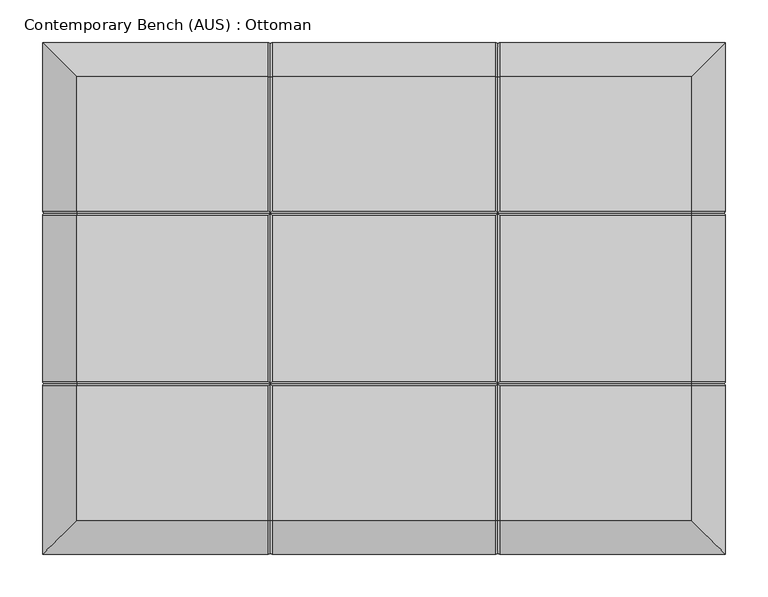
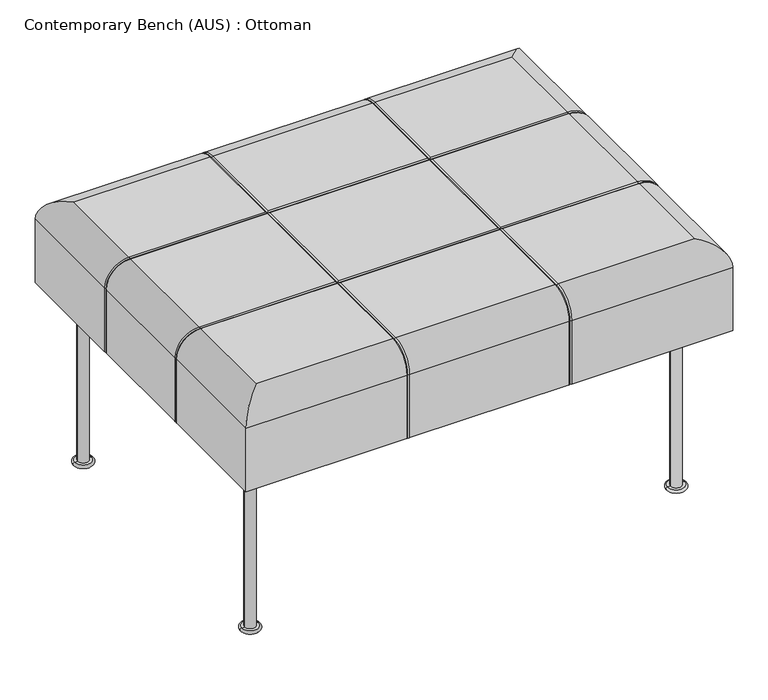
"""IFC4 building model written with IfcOpenShell, lengths in millimetres: furniture geometry, Contemporary Bench (AUS) : Ottoman."""

from ifc_helpers import new_model, si_unit, point, frame, origin, place, context, project, spatial, circle_curve, ellipse_curve, trimmed, source, transform, mapped, element, save
from ifc_brep_helpers import plane_surface, cylinder_surface, revolved_surface, advanced_brep


def contemporary_bench_aus_ottoman_80d4fd55(model_context):
    return source(origin(), model_context, "Body", "AdvancedBrep", [
        advanced_brep(
        [(462.3811933, -50.0, 5.0), (480.3811933, -50.0, 5.0), (480.3811933, -50.0, 300.0), (462.3811933, -50.0, 300.0), (457.3811933, -50.0, 5.0), (485.3811933, -50.0, 5.0), (457.3811933, -50.0, 0.0), (485.3811933, -50.0, 0.0), (471.3811933, -50.0, 0.0), (471.3811933, -50.0, 300.0)],
        [
            (0, 1, circle_curve(frame((471.3811933, -50.0, 5.0), z_axis=(0.0, 0.0, 1.0), x_axis=(1.0, 0.0, 0.0)), 9.0)),
            (1, 2),
            (2, 3, circle_curve(frame((471.3811933, -50.0, 300.0), z_axis=(0.0, 0.0, -1.0), x_axis=(1.0, 0.0, 0.0)), 9.0)),
            (3, 0),
            (1, 0, circle_curve(frame((471.3811933, -50.0, 5.0), z_axis=(0.0, 0.0, 1.0), x_axis=(1.0, 0.0, 0.0)), 9.0)),
            (3, 2, circle_curve(frame((471.3811933, -50.0, 300.0), z_axis=(0.0, 0.0, -1.0), x_axis=(1.0, 0.0, 0.0)), 9.0)),
            (4, 5, circle_curve(frame((471.3811933, -50.0, 5.0), z_axis=(0.0, 0.0, 1.0), x_axis=(1.0, 0.0, 0.0)), 14.0)),
            (5, 1),
            (0, 4),
            (5, 4, circle_curve(frame((471.3811933, -50.0, 5.0), z_axis=(0.0, 0.0, 1.0), x_axis=(1.0, 0.0, 0.0)), 14.0)),
            (6, 7, circle_curve(frame((471.3811933, -50.0, 0.0), z_axis=(0.0, 0.0, 1.0), x_axis=(1.0, 0.0, 0.0)), 14.0)),
            (7, 5, circle_curve(frame((485.3811933, -50.0, 2.5), z_axis=(0.0, -1.0, 0.0), x_axis=(-1.0, 0.0, 0.0)), 2.5)),
            (4, 6, circle_curve(frame((457.3811933, -50.0, 2.5), z_axis=(0.0, -1.0, 0.0), x_axis=(1.0, 0.0, 0.0)), 2.5)),
            (7, 6, circle_curve(frame((471.3811933, -50.0, 0.0), z_axis=(0.0, 0.0, 1.0), x_axis=(1.0, 0.0, 0.0)), 14.0)),
            (8, 7),
            (6, 8),
            (2, 9),
            (9, 3),
        ],
        [
            cylinder_surface(frame((471.3811933, -50.0, -55.0), z_axis=(0.0, 0.0, -1.0), x_axis=(1.0, 0.0, 0.0)), 9.0),
            plane_surface(frame((471.3811933, -50.0, 5.0), z_axis=(0.0, 0.0, 1.0), x_axis=(1.0, 0.0, 0.0))),
            revolved_surface(trimmed(ellipse_curve(frame((485.3811933, -50.0, 2.5), z_axis=(0.0, 1.0, 0.0), x_axis=(-1.0, 0.0, 0.0)), 2.5, 2.5), [point((485.3811933, -50.0, 5.0))], [point((485.3811933, -50.0, 0.0))], True, "CARTESIAN"), (471.3811933, -50.0, -55.0), (0.0, 0.0, -1.0)),
            plane_surface(frame((471.3811933, -50.0, 0.0), z_axis=(0.0, 0.0, -1.0), x_axis=(1.0, 0.0, 0.0))),
            plane_surface(frame((471.3811933, -50.0, 300.0), z_axis=(0.0, 0.0, 1.0), x_axis=(1.0, 0.0, 0.0))),
        ],
        [
            (0, [[1, 2, 3, 4]]),
            (0, [[5, -4, 6, -2]]),
            (1, [[7, 8, -1, 9]]),
            (1, [[10, -9, -5, -8]]),
            (2, [[11, 12, -7, 13]]),
            (2, [[14, -13, -10, -12]]),
            (3, [[15, -11, 16]]),
            (3, [[-16, -14, -15]]),
            (4, [[-3, 17, 18]]),
            (4, [[-6, -18, -17]]),
        ],
    ),
        advanced_brep(
        [(-228.6188067, -50.0, 300.0), (-237.6188067, -50.0, 300.0), (-219.6188067, -50.0, 300.0), (-214.6188067, -50.0, 0.0), (-242.6188067, -50.0, 0.0), (-228.6188067, -50.0, 0.0), (-214.6188067, -50.0, 5.0), (-242.6188067, -50.0, 5.0), (-219.6188067, -50.0, 5.0), (-237.6188067, -50.0, 5.0)],
        [
            (0, 1),
            (1, 2, circle_curve(frame((-228.6188067, -50.0, 300.0), z_axis=(0.0, 0.0, 1.0), x_axis=(-1.0, 0.0, 0.0)), 9.0)),
            (2, 0),
            (2, 1, circle_curve(frame((-228.6188067, -50.0, 300.0), z_axis=(0.0, 0.0, 1.0), x_axis=(-1.0, 0.0, 0.0)), 9.0)),
            (3, 4, circle_curve(frame((-228.6188067, -50.0, 0.0), z_axis=(0.0, 0.0, -1.0), x_axis=(-1.0, 0.0, 0.0)), 14.0)),
            (4, 5),
            (5, 3),
            (4, 3, circle_curve(frame((-228.6188067, -50.0, 0.0), z_axis=(0.0, 0.0, -1.0), x_axis=(-1.0, 0.0, 0.0)), 14.0)),
            (6, 7, circle_curve(frame((-228.6188067, -50.0, 5.0), z_axis=(0.0, 0.0, -1.0), x_axis=(-1.0, 0.0, 0.0)), 14.0)),
            (7, 4, circle_curve(frame((-242.6188067, -50.0, 2.5), z_axis=(0.0, -1.0, 0.0), x_axis=(-1.0, 0.0, 0.0)), 2.5)),
            (3, 6, circle_curve(frame((-214.6188067, -50.0, 2.5), z_axis=(0.0, -1.0, 0.0), x_axis=(1.0, 0.0, 0.0)), 2.5)),
            (7, 6, circle_curve(frame((-228.6188067, -50.0, 5.0), z_axis=(0.0, 0.0, -1.0), x_axis=(-1.0, 0.0, 0.0)), 14.0)),
            (8, 9, circle_curve(frame((-228.6188067, -50.0, 5.0), z_axis=(0.0, 0.0, -1.0), x_axis=(-1.0, 0.0, 0.0)), 9.0)),
            (9, 7),
            (6, 8),
            (9, 8, circle_curve(frame((-228.6188067, -50.0, 5.0), z_axis=(0.0, 0.0, -1.0), x_axis=(-1.0, 0.0, 0.0)), 9.0)),
            (1, 9),
            (8, 2),
        ],
        [
            plane_surface(frame((-228.6188067, -50.0, 300.0), z_axis=(0.0, 0.0, 1.0), x_axis=(-1.0, 0.0, 0.0))),
            plane_surface(frame((-228.6188067, -50.0, 0.0), z_axis=(0.0, 0.0, -1.0), x_axis=(-1.0, 0.0, 0.0))),
            revolved_surface(trimmed(ellipse_curve(frame((-242.6188067, -50.0, 2.5), z_axis=(0.0, 1.0, 0.0), x_axis=(-1.0, 0.0, 0.0)), 2.5, 2.5), [point((-242.6188067, -50.0, 0.0))], [point((-242.6188067, -50.0, 5.0))], True, "CARTESIAN"), (-228.6188067, -50.0, -55.0), (0.0, 0.0, 1.0)),
            plane_surface(frame((-228.6188067, -50.0, 5.0), z_axis=(0.0, 0.0, 1.0), x_axis=(-1.0, 0.0, 0.0))),
            cylinder_surface(frame((-228.6188067, -50.0, -55.0), z_axis=(0.0, 0.0, 1.0), x_axis=(-1.0, 0.0, 0.0)), 9.0),
        ],
        [
            (0, [[1, 2, 3]]),
            (0, [[-3, 4, -1]]),
            (1, [[5, 6, 7]]),
            (1, [[8, -7, -6]]),
            (2, [[9, 10, -5, 11]]),
            (2, [[12, -11, -8, -10]]),
            (3, [[13, 14, -9, 15]]),
            (3, [[16, -15, -12, -14]]),
            (4, [[-2, 17, -13, 18]]),
            (4, [[-4, -18, -16, -17]]),
        ],
    ),
        advanced_brep(
        [(462.3811933, -525.0, 5.0), (480.3811933, -525.0, 5.0), (480.3811933, -525.0, 300.0), (462.3811933, -525.0, 300.0), (457.3811933, -525.0, 5.0), (485.3811933, -525.0, 5.0), (457.3811933, -525.0, 0.0), (485.3811933, -525.0, 0.0), (471.3811933, -525.0, 0.0), (471.3811933, -525.0, 300.0)],
        [
            (0, 1, circle_curve(frame((471.3811933, -525.0, 5.0), z_axis=(0.0, 0.0, 1.0), x_axis=(1.0, 0.0, 0.0)), 9.0)),
            (1, 2),
            (2, 3, circle_curve(frame((471.3811933, -525.0, 300.0), z_axis=(0.0, 0.0, -1.0), x_axis=(1.0, 0.0, 0.0)), 9.0)),
            (3, 0),
            (1, 0, circle_curve(frame((471.3811933, -525.0, 5.0), z_axis=(0.0, 0.0, 1.0), x_axis=(1.0, 0.0, 0.0)), 9.0)),
            (3, 2, circle_curve(frame((471.3811933, -525.0, 300.0), z_axis=(0.0, 0.0, -1.0), x_axis=(1.0, 0.0, 0.0)), 9.0)),
            (4, 5, circle_curve(frame((471.3811933, -525.0, 5.0), z_axis=(0.0, 0.0, 1.0), x_axis=(1.0, 0.0, 0.0)), 14.0)),
            (5, 1),
            (0, 4),
            (5, 4, circle_curve(frame((471.3811933, -525.0, 5.0), z_axis=(0.0, 0.0, 1.0), x_axis=(1.0, 0.0, 0.0)), 14.0)),
            (6, 7, circle_curve(frame((471.3811933, -525.0, 0.0), z_axis=(0.0, 0.0, 1.0), x_axis=(1.0, 0.0, 0.0)), 14.0)),
            (7, 5, circle_curve(frame((485.3811933, -525.0, 2.5), z_axis=(0.0, -1.0, 0.0), x_axis=(1.0, 0.0, 0.0)), 2.5)),
            (4, 6, circle_curve(frame((457.3811933, -525.0, 2.5), z_axis=(0.0, -1.0, 0.0), x_axis=(-1.0, 0.0, 0.0)), 2.5)),
            (7, 6, circle_curve(frame((471.3811933, -525.0, 0.0), z_axis=(0.0, 0.0, 1.0), x_axis=(1.0, 0.0, 0.0)), 14.0)),
            (8, 7),
            (6, 8),
            (2, 9),
            (9, 3),
        ],
        [
            cylinder_surface(frame((471.3811933, -525.0, -55.0), z_axis=(0.0, 0.0, -1.0), x_axis=(1.0, 0.0, 0.0)), 9.0),
            plane_surface(frame((471.3811933, -525.0, 5.0), z_axis=(0.0, 0.0, 1.0), x_axis=(1.0, 0.0, 0.0))),
            revolved_surface(trimmed(ellipse_curve(frame((485.3811933, -525.0, 2.5), z_axis=(0.0, 1.0, 0.0), x_axis=(1.0, 0.0, 0.0)), 2.5, 2.5), [point((485.3811933, -525.0, 5.0))], [point((485.3811933, -525.0, 0.0))], True, "CARTESIAN"), (471.3811933, -525.0, -55.0), (0.0, 0.0, -1.0)),
            plane_surface(frame((471.3811933, -525.0, 0.0), z_axis=(0.0, 0.0, -1.0), x_axis=(1.0, 0.0, 0.0))),
            plane_surface(frame((471.3811933, -525.0, 300.0), z_axis=(0.0, 0.0, 1.0), x_axis=(1.0, 0.0, 0.0))),
        ],
        [
            (0, [[1, 2, 3, 4]]),
            (0, [[5, -4, 6, -2]]),
            (1, [[7, 8, -1, 9]]),
            (1, [[10, -9, -5, -8]]),
            (2, [[11, 12, -7, 13]]),
            (2, [[14, -13, -10, -12]]),
            (3, [[15, -11, 16]]),
            (3, [[-16, -14, -15]]),
            (4, [[-3, 17, 18]]),
            (4, [[-6, -18, -17]]),
        ],
    ),
        advanced_brep(
        [(-228.6188067, -525.0, 300.0), (-237.6188067, -525.0, 300.0), (-219.6188067, -525.0, 300.0), (-214.6188067, -525.0, 0.0), (-242.6188067, -525.0, 0.0), (-228.6188067, -525.0, 0.0), (-214.6188067, -525.0, 5.0), (-242.6188067, -525.0, 5.0), (-219.6188067, -525.0, 5.0), (-237.6188067, -525.0, 5.0)],
        [
            (0, 1),
            (1, 2, circle_curve(frame((-228.6188067, -525.0, 300.0), z_axis=(0.0, 0.0, 1.0), x_axis=(-1.0, 0.0, 0.0)), 9.0)),
            (2, 0),
            (2, 1, circle_curve(frame((-228.6188067, -525.0, 300.0), z_axis=(0.0, 0.0, 1.0), x_axis=(-1.0, 0.0, 0.0)), 9.0)),
            (3, 4, circle_curve(frame((-228.6188067, -525.0, 0.0), z_axis=(0.0, 0.0, -1.0), x_axis=(-1.0, 0.0, 0.0)), 14.0)),
            (4, 5),
            (5, 3),
            (4, 3, circle_curve(frame((-228.6188067, -525.0, 0.0), z_axis=(0.0, 0.0, -1.0), x_axis=(-1.0, 0.0, 0.0)), 14.0)),
            (6, 7, circle_curve(frame((-228.6188067, -525.0, 5.0), z_axis=(0.0, 0.0, -1.0), x_axis=(-1.0, 0.0, 0.0)), 14.0)),
            (7, 4, circle_curve(frame((-242.6188067, -525.0, 2.5), z_axis=(0.0, -1.0, 0.0), x_axis=(-1.0, 0.0, 0.0)), 2.5)),
            (3, 6, circle_curve(frame((-214.6188067, -525.0, 2.5), z_axis=(0.0, -1.0, 0.0), x_axis=(1.0, 0.0, 0.0)), 2.5)),
            (7, 6, circle_curve(frame((-228.6188067, -525.0, 5.0), z_axis=(0.0, 0.0, -1.0), x_axis=(-1.0, 0.0, 0.0)), 14.0)),
            (8, 9, circle_curve(frame((-228.6188067, -525.0, 5.0), z_axis=(0.0, 0.0, -1.0), x_axis=(-1.0, 0.0, 0.0)), 9.0)),
            (9, 7),
            (6, 8),
            (9, 8, circle_curve(frame((-228.6188067, -525.0, 5.0), z_axis=(0.0, 0.0, -1.0), x_axis=(-1.0, 0.0, 0.0)), 9.0)),
            (1, 9),
            (8, 2),
        ],
        [
            plane_surface(frame((-228.6188067, -525.0, 300.0), z_axis=(0.0, 0.0, 1.0), x_axis=(-1.0, 0.0, 0.0))),
            plane_surface(frame((-228.6188067, -525.0, 0.0), z_axis=(0.0, 0.0, -1.0), x_axis=(-1.0, 0.0, 0.0))),
            revolved_surface(trimmed(ellipse_curve(frame((-242.6188067, -525.0, 2.5), z_axis=(0.0, 1.0, 0.0), x_axis=(-1.0, 0.0, 0.0)), 2.5, 2.5), [point((-242.6188067, -525.0, 0.0))], [point((-242.6188067, -525.0, 5.0))], True, "CARTESIAN"), (-228.6188067, -525.0, -55.0), (0.0, 0.0, 1.0)),
            plane_surface(frame((-228.6188067, -525.0, 5.0), z_axis=(0.0, 0.0, 1.0), x_axis=(-1.0, 0.0, 0.0))),
            cylinder_surface(frame((-228.6188067, -525.0, -55.0), z_axis=(0.0, 0.0, 1.0), x_axis=(-1.0, 0.0, 0.0)), 9.0),
        ],
        [
            (0, [[1, 2, 3]]),
            (0, [[-3, 4, -1]]),
            (1, [[5, 6, 7]]),
            (1, [[8, -7, -6]]),
            (2, [[9, 10, -5, 11]]),
            (2, [[12, -11, -8, -10]]),
            (3, [[13, 14, -9, 15]]),
            (3, [[16, -15, -12, -14]]),
            (4, [[-2, 17, -13, 18]]),
            (4, [[-4, -18, -16, -17]]),
        ],
    ),
        advanced_brep(
        [(-278.6188067, -600.0, 410.0), (-278.6188067, -600.0, 300.0), (-14.6315493, -600.0, 300.0), (-14.6315493, -600.0, 410.0), (521.3811933, -600.0, 300.0), (521.3811933, -600.0, 410.0), (257.3939359, -600.0, 410.0), (257.3939359, -600.0, 300.0), (-9.2727308, -600.0, 300.0), (252.0351174, -600.0, 300.0), (252.0351174, -600.0, 410.0), (-9.2727308, -600.0, 410.0), (521.3811933, 0.0, 410.0), (521.3811933, 0.0, 300.0), (257.3939359, 0.0, 300.0), (257.3939359, 0.0, 410.0), (-278.6188067, 0.0, 300.0), (-278.6188067, 0.0, 410.0), (-14.6315493, 0.0, 410.0), (-14.6315493, 0.0, 300.0), (252.0351174, 0.0, 300.0), (-9.2727308, 0.0, 300.0), (-9.2727308, 0.0, 410.0), (252.0351174, 0.0, 410.0), (-238.6188067, -402.679408, 450.0), (-238.6188067, -560.0, 450.0), (-14.6315493, -560.0, 450.0), (-14.6315493, -402.6794092, 450.0), (-238.6188067, -40.0, 450.0), (-238.6188067, -197.3205908, 450.0), (-14.6315493, -197.3205908, 450.0), (-14.6315493, -40.0, 450.0), (-238.6188067, -202.6794084, 450.0), (-238.6188067, -397.3205908, 450.0), (-14.6315493, -397.3205908, 450.0), (-14.6315493, -202.6794092, 450.0), (481.3811933, -560.0, 450.0), (481.3811933, -402.6794092, 450.0), (257.3939359, -402.6794092, 450.0), (257.3939359, -560.0, 450.0), (481.3811933, -197.3205908, 450.0), (481.3811933, -40.0, 450.0), (257.3939359, -40.0, 450.0), (257.3939359, -197.3205908, 450.0), (481.3811933, -397.3205908, 450.0), (481.3811933, -202.6794092, 450.0), (257.3939359, -202.6794092, 450.0), (257.3939359, -397.3205908, 450.0), (252.0351188, -40.0, 450.0), (-9.2727308, -40.0, 450.0), (-9.2727308, -197.3205908, 450.0), (252.0351174, -197.3205908, 450.0), (-9.2727308, -560.0, 450.0), (252.0351174, -560.0, 450.0), (252.0351174, -402.6794092, 450.0), (-9.2727308, -402.6794092, 450.0), (-9.2727308, -397.3205908, 450.0), (252.0351174, -397.3205908, 450.0), (252.0351174, -202.6794092, 450.0), (-9.2727308, -202.6794092, 450.0), (-278.6188067, -402.6794092, 410.0), (-278.6188067, -402.6794092, 300.0), (-278.6188067, -197.3205908, 300.0), (-278.6188067, -197.3205908, 410.0), (-278.6188067, -397.3205908, 410.0), (-278.6188067, -202.6794092, 410.0), (-278.6188067, -202.6794092, 300.0), (-278.6188067, -397.3205908, 300.0), (-275.9393975, -400.0, 300.0), (-275.9393975, -200.0, 300.0), (-11.95214, -2.6794092, 300.0), (254.7145266, -2.6794092, 300.0), (521.3811933, -197.3205908, 300.0), (518.7017841, -200.0, 300.0), (521.3811933, -202.6794092, 300.0), (521.3811933, -397.3205908, 300.0), (518.7017841, -400.0, 300.0), (521.3811933, -402.6794092, 300.0), (254.7145266, -597.3205908, 300.0), (-11.95214, -597.3205908, 300.0), (521.3811933, -402.6794092, 410.0), (521.3811933, -197.3205908, 410.0), (521.3811933, -202.6794092, 410.0), (521.3811933, -397.3205908, 410.0), (-275.9393975, -400.0, 410.0), (-275.9393975, -200.0, 410.0), (-238.6188067, -400.0, 447.3205908), (-238.6188067, -200.0, 447.3205908), (-11.95214, -400.0, 447.3205908), (254.7145266, -400.0, 447.3205908), (481.3811933, -400.0, 447.3205908), (-11.95214, -200.0, 447.3205908), (254.7145266, -200.0, 447.3205908), (481.3811933, -200.0, 447.3205908), (518.7017841, -400.0, 410.0), (518.7017841, -200.0, 410.0), (-11.95214, -2.6794092, 410.0), (254.7145266, -2.6794092, 410.0), (-11.95214, -40.0, 447.3205908), (254.7145266, -40.0, 447.3205908), (-11.95214, -560.0, 447.3205908), (254.7145266, -560.0, 447.3205908), (-11.95214, -597.3205908, 410.0), (254.7145266, -597.3205908, 410.0)],
        [
            (0, 1),
            (1, 2),
            (2, 3),
            (3, 0),
            (4, 5),
            (5, 6),
            (6, 7),
            (7, 4),
            (8, 9),
            (9, 10),
            (10, 11),
            (11, 8),
            (12, 13),
            (13, 14),
            (14, 15),
            (15, 12),
            (16, 17),
            (17, 18),
            (18, 19),
            (19, 16),
            (20, 21),
            (21, 22),
            (22, 23),
            (23, 20),
            (24, 25),
            (25, 26),
            (26, 27),
            (27, 24),
            (28, 29),
            (29, 30),
            (30, 31),
            (31, 28),
            (32, 33),
            (33, 34),
            (34, 35),
            (35, 32),
            (36, 37),
            (37, 38),
            (38, 39),
            (39, 36),
            (40, 41),
            (41, 42),
            (42, 43),
            (43, 40),
            (44, 45),
            (45, 46),
            (46, 47),
            (47, 44),
            (48, 49),
            (49, 50),
            (50, 51),
            (51, 48),
            (52, 53),
            (53, 54),
            (54, 55),
            (55, 52),
            (56, 57),
            (57, 58),
            (58, 59),
            (59, 56),
            (0, 60),
            (60, 61),
            (61, 1),
            (16, 62),
            (62, 63),
            (63, 17),
            (64, 65),
            (65, 66),
            (66, 67),
            (67, 64),
            (61, 68, circle_curve(frame((-275.9393975, -402.6794092, 300.0), z_axis=(0.0, 0.0, -1.0), x_axis=(1.0, 0.0, 0.0)), 2.6794092)),
            (68, 67, circle_curve(frame((-275.9393975, -397.3205908, 300.0), z_axis=(0.0, 0.0, -1.0), x_axis=(1.0, 0.0, 0.0)), 2.6794092)),
            (66, 69, circle_curve(frame((-275.9393975, -202.6794092, 300.0), z_axis=(0.0, 0.0, -1.0), x_axis=(1.0, 0.0, 0.0)), 2.6794092)),
            (69, 62, circle_curve(frame((-275.9393975, -197.3205908, 300.0), z_axis=(0.0, 0.0, -1.0), x_axis=(1.0, 0.0, 0.0)), 2.6794092)),
            (19, 70, circle_curve(frame((-14.6315493, -2.6794092, 300.0), z_axis=(0.0, 0.0, -1.0), x_axis=(1.0, 0.0, 0.0)), 2.6794092)),
            (70, 21, circle_curve(frame((-9.2727308, -2.6794092, 300.0), z_axis=(0.0, 0.0, -1.0), x_axis=(1.0, 0.0, 0.0)), 2.6794092)),
            (20, 71, circle_curve(frame((252.0351174, -2.6794092, 300.0), z_axis=(0.0, 0.0, -1.0), x_axis=(1.0, 0.0, 0.0)), 2.6794092)),
            (71, 14, circle_curve(frame((257.3939359, -2.6794092, 300.0), z_axis=(0.0, 0.0, -1.0), x_axis=(1.0, 0.0, 0.0)), 2.6794092)),
            (13, 72),
            (72, 73, circle_curve(frame((518.7017841, -197.3205908, 300.0), z_axis=(0.0, 0.0, -1.0), x_axis=(-1.0, 0.0, 0.0)), 2.6794092)),
            (73, 74, circle_curve(frame((518.7017841, -202.6794092, 300.0), z_axis=(0.0, 0.0, -1.0), x_axis=(-1.0, 0.0, 0.0)), 2.6794092)),
            (74, 75),
            (75, 76, circle_curve(frame((518.7017841, -397.3205908, 300.0), z_axis=(0.0, 0.0, -1.0), x_axis=(-1.0, 0.0, 0.0)), 2.6794092)),
            (76, 77, circle_curve(frame((518.7017841, -402.6794092, 300.0), z_axis=(0.0, 0.0, -1.0), x_axis=(-1.0, 0.0, 0.0)), 2.6794092)),
            (77, 4),
            (7, 78, circle_curve(frame((257.3939359, -597.3205908, 300.0), z_axis=(0.0, 0.0, -1.0), x_axis=(1.0, 0.0, 0.0)), 2.6794092)),
            (78, 9, circle_curve(frame((252.0351174, -597.3205908, 300.0), z_axis=(0.0, 0.0, -1.0), x_axis=(1.0, 0.0, 0.0)), 2.6794092)),
            (8, 79, circle_curve(frame((-9.2727308, -597.3205908, 300.0), z_axis=(0.0, 0.0, -1.0), x_axis=(1.0, 0.0, 0.0)), 2.6794092)),
            (79, 2, circle_curve(frame((-14.6315493, -597.3205908, 300.0), z_axis=(0.0, 0.0, -1.0), x_axis=(1.0, 0.0, 0.0)), 2.6794092)),
            (77, 80),
            (80, 5),
            (12, 81),
            (81, 72),
            (74, 82),
            (82, 83),
            (83, 75),
            (32, 65, circle_curve(frame((-238.6188067, -202.6794092, 410.0), z_axis=(0.0, -1.0, 0.0), x_axis=(-1.0, 0.0, 0.0)), 40.0)),
            (64, 33, circle_curve(frame((-238.6188067, -397.3205908, 410.0), z_axis=(0.0, 1.0, 0.0), x_axis=(-1.0, 0.0, 0.0)), 40.0)),
            (28, 17, ellipse_curve(frame((-238.6188067, -40.0, 410.0), z_axis=(-0.7071067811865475, -0.7071067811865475, 0.0), x_axis=(-0.7071067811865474, 0.7071067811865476, 0.0)), 56.5685425, 40.0)),
            (63, 29, circle_curve(frame((-238.6188067, -197.3205908, 410.0), z_axis=(0.0, 1.0, 0.0), x_axis=(-1.0, 0.0, 0.0)), 40.0)),
            (0, 25, ellipse_curve(frame((-238.6188067, -560.0, 410.0), z_axis=(-0.7071067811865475, 0.7071067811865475, 0.0), x_axis=(0.7071067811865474, 0.7071067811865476, 0.0)), 56.5685425, 40.0)),
            (24, 60, circle_curve(frame((-238.6188067, -402.6794092, 410.0), z_axis=(0.0, -1.0, 0.0), x_axis=(-1.0, 0.0, 0.0)), 40.0)),
            (22, 49, circle_curve(frame((-9.2727308, -40.0, 410.0), z_axis=(1.0, 0.0, 0.0), x_axis=(0.0, 1.0, 0.0)), 40.0)),
            (48, 23, circle_curve(frame((252.0351174, -40.0, 410.0), z_axis=(-1.0, 0.0, 0.0), x_axis=(0.0, 1.0, 0.0)), 40.0)),
            (31, 18, circle_curve(frame((-14.6315493, -40.0, 410.0), z_axis=(-1.0, 0.0, 0.0), x_axis=(0.0, 1.0, 0.0)), 40.0)),
            (41, 12, ellipse_curve(frame((481.3811933, -40.0, 410.0), z_axis=(-0.7071067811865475, 0.7071067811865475, 0.0), x_axis=(0.7071067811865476, 0.7071067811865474, 0.0)), 56.5685425, 40.0)),
            (15, 42, circle_curve(frame((257.3939359, -40.0, 410.0), z_axis=(1.0, 0.0, 0.0), x_axis=(0.0, 1.0, 0.0)), 40.0)),
            (44, 83, circle_curve(frame((481.3811933, -397.3205908, 410.0), z_axis=(0.0, 1.0, 0.0), x_axis=(1.0, 0.0, 0.0)), 40.0)),
            (82, 45, circle_curve(frame((481.3811933, -202.6794092, 410.0), z_axis=(0.0, -1.0, 0.0), x_axis=(1.0, 0.0, 0.0)), 40.0)),
            (40, 81, circle_curve(frame((481.3811933, -197.3205908, 410.0), z_axis=(0.0, 1.0, 0.0), x_axis=(1.0, 0.0, 0.0)), 40.0)),
            (36, 5, ellipse_curve(frame((481.3811933, -560.0, 410.0), z_axis=(0.7071067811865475, 0.7071067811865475, 0.0), x_axis=(0.7071067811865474, -0.7071067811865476, 0.0)), 56.5685425, 40.0)),
            (80, 37, circle_curve(frame((481.3811933, -402.6794092, 410.0), z_axis=(0.0, -1.0, 0.0), x_axis=(1.0, 0.0, 0.0)), 40.0)),
            (10, 53, circle_curve(frame((252.0351174, -560.0, 410.0), z_axis=(-1.0, 0.0, 0.0), x_axis=(0.0, -1.0, 0.0)), 40.0)),
            (52, 11, circle_curve(frame((-9.2727308, -560.0, 410.0), z_axis=(1.0, 0.0, 0.0), x_axis=(0.0, -1.0, 0.0)), 40.0)),
            (3, 26, circle_curve(frame((-14.6315493, -560.0, 410.0), z_axis=(-1.0, 0.0, 0.0), x_axis=(0.0, -1.0, 0.0)), 40.0)),
            (39, 6, circle_curve(frame((257.3939359, -560.0, 410.0), z_axis=(1.0, 0.0, 0.0), x_axis=(0.0, -1.0, 0.0)), 40.0)),
            (68, 84),
            (84, 64, circle_curve(frame((-275.9393975, -397.3205908, 410.0), z_axis=(0.0, 0.0, -1.0), x_axis=(1.0, 0.0, 0.0)), 2.6794092)),
            (60, 84, circle_curve(frame((-275.9393975, -402.6794092, 410.0), z_axis=(0.0, 0.0, -1.0), x_axis=(1.0, 0.0, 0.0)), 2.6794092)),
            (69, 85),
            (85, 63, circle_curve(frame((-275.9393975, -197.3205908, 410.0), z_axis=(0.0, 0.0, -1.0), x_axis=(1.0, 0.0, 0.0)), 2.6794092)),
            (65, 85, circle_curve(frame((-275.9393975, -202.6794092, 410.0), z_axis=(0.0, 0.0, -1.0), x_axis=(1.0, 0.0, 0.0)), 2.6794092)),
            (84, 86, circle_curve(frame((-238.6188067, -400.0, 410.0), z_axis=(0.0, 1.0, 0.0), x_axis=(-1.0, 0.0, 0.0)), 37.3205908)),
            (86, 33, circle_curve(frame((-238.6188067, -397.3205908, 447.3205908), z_axis=(-1.0, 0.0, 0.0), x_axis=(0.0, 0.0, -1.0)), 2.6794092)),
            (24, 86, circle_curve(frame((-238.6188067, -402.6794092, 447.3205908), z_axis=(-1.0, 0.0, 0.0), x_axis=(0.0, 0.0, -1.0)), 2.6794092)),
            (85, 87, circle_curve(frame((-238.6188067, -200.0, 410.0), z_axis=(0.0, 1.0, 0.0), x_axis=(-1.0, 0.0, 0.0)), 37.3205908)),
            (87, 29, circle_curve(frame((-238.6188067, -197.3205908, 447.3205908), z_axis=(-1.0, 0.0, 0.0), x_axis=(0.0, 0.0, -1.0)), 2.6794092)),
            (32, 87, circle_curve(frame((-238.6188067, -202.6794092, 447.3205908), z_axis=(-1.0, 0.0, 0.0), x_axis=(0.0, 0.0, -1.0)), 2.6794092)),
            (56, 88, ellipse_curve(frame((-9.2727308, -397.3205908, 447.3205908), z_axis=(0.7071067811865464, -0.7071067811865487, 0.0), x_axis=(0.7071067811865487, 0.7071067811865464, 0.0)), 3.7892569, 2.6794092)),
            (88, 89),
            (89, 57, ellipse_curve(frame((252.0351174, -397.3205908, 447.3205908), z_axis=(-0.7071067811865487, -0.7071067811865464, 0.0), x_axis=(0.7071067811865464, -0.7071067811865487, 0.0)), 3.7892569, 2.6794092)),
            (86, 88),
            (88, 34, ellipse_curve(frame((-14.6315493, -397.3205908, 447.3205908), z_axis=(-0.7071067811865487, -0.7071067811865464, 0.0), x_axis=(0.7071067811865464, -0.7071067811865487, 0.0)), 3.7892569, 2.6794092)),
            (90, 44, circle_curve(frame((481.3811933, -397.3205908, 447.3205908), z_axis=(-1.0, 0.0, 0.0), x_axis=(0.0, 0.0, -1.0)), 2.6794092)),
            (47, 89, ellipse_curve(frame((257.3939359, -397.3205908, 447.3205908), z_axis=(0.7071067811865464, -0.7071067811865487, 0.0), x_axis=(0.7071067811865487, 0.7071067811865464, 0.0)), 3.7892569, 2.6794092)),
            (89, 90),
            (54, 89, ellipse_curve(frame((252.0351174, -402.6794092, 447.3205908), z_axis=(-0.7071067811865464, 0.7071067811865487, 0.0), x_axis=(0.7071067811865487, 0.7071067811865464, 0.0)), 3.7892569, 2.6794092)),
            (88, 55, ellipse_curve(frame((-9.2727308, -402.6794092, 447.3205908), z_axis=(0.7071067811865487, 0.7071067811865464, 0.0), x_axis=(0.7071067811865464, -0.7071067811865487, 0.0)), 3.7892569, 2.6794092)),
            (27, 88, ellipse_curve(frame((-14.6315493, -402.6794092, 447.3205908), z_axis=(-0.7071067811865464, 0.7071067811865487, 0.0), x_axis=(0.7071067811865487, 0.7071067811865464, 0.0)), 3.7892569, 2.6794092)),
            (37, 90, circle_curve(frame((481.3811933, -402.6794092, 447.3205908), z_axis=(-1.0, 0.0, 0.0), x_axis=(0.0, 0.0, -1.0)), 2.6794092)),
            (89, 38, ellipse_curve(frame((257.3939359, -402.6794092, 447.3205908), z_axis=(0.7071067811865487, 0.7071067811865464, 0.0), x_axis=(0.7071067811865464, -0.7071067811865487, 0.0)), 3.7892569, 2.6794092)),
            (50, 91, ellipse_curve(frame((-9.2727308, -197.3205908, 447.3205908), z_axis=(0.7071067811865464, -0.7071067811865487, 0.0), x_axis=(0.7071067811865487, 0.7071067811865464, 0.0)), 3.7892569, 2.6794092)),
            (91, 92),
            (92, 51, ellipse_curve(frame((252.0351174, -197.3205908, 447.3205908), z_axis=(-0.7071067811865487, -0.7071067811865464, 0.0), x_axis=(0.7071067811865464, -0.7071067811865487, 0.0)), 3.7892569, 2.6794092)),
            (87, 91),
            (91, 30, ellipse_curve(frame((-14.6315493, -197.3205908, 447.3205908), z_axis=(-0.7071067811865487, -0.7071067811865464, 0.0), x_axis=(0.7071067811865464, -0.7071067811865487, 0.0)), 3.7892569, 2.6794092)),
            (93, 40, circle_curve(frame((481.3811933, -197.3205908, 447.3205908), z_axis=(-1.0, 0.0, 0.0), x_axis=(0.0, 0.0, -1.0)), 2.6794092)),
            (43, 92, ellipse_curve(frame((257.3939359, -197.3205908, 447.3205908), z_axis=(0.7071067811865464, -0.7071067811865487, 0.0), x_axis=(0.7071067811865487, 0.7071067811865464, 0.0)), 3.7892569, 2.6794092)),
            (92, 93),
            (58, 92, ellipse_curve(frame((252.0351174, -202.6794092, 447.3205908), z_axis=(-0.7071067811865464, 0.7071067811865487, 0.0), x_axis=(0.7071067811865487, 0.7071067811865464, 0.0)), 3.7892569, 2.6794092)),
            (91, 59, ellipse_curve(frame((-9.2727308, -202.6794092, 447.3205908), z_axis=(0.7071067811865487, 0.7071067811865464, 0.0), x_axis=(0.7071067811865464, -0.7071067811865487, 0.0)), 3.7892569, 2.6794092)),
            (35, 91, ellipse_curve(frame((-14.6315493, -202.6794092, 447.3205908), z_axis=(-0.7071067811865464, 0.7071067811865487, 0.0), x_axis=(0.7071067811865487, 0.7071067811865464, 0.0)), 3.7892569, 2.6794092)),
            (45, 93, circle_curve(frame((481.3811933, -202.6794092, 447.3205908), z_axis=(-1.0, 0.0, 0.0), x_axis=(0.0, 0.0, -1.0)), 2.6794092)),
            (92, 46, ellipse_curve(frame((257.3939359, -202.6794092, 447.3205908), z_axis=(0.7071067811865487, 0.7071067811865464, 0.0), x_axis=(0.7071067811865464, -0.7071067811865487, 0.0)), 3.7892569, 2.6794092)),
            (90, 94, circle_curve(frame((481.3811933, -400.0, 410.0), z_axis=(0.0, 1.0, 0.0), x_axis=(0.0, 0.0, 1.0)), 37.3205908)),
            (94, 83, circle_curve(frame((518.7017841, -397.3205908, 410.0), z_axis=(0.0, 0.0, 1.0), x_axis=(-1.0, 0.0, 0.0)), 2.6794092)),
            (80, 94, circle_curve(frame((518.7017841, -402.6794092, 410.0), z_axis=(0.0, 0.0, 1.0), x_axis=(-1.0, 0.0, 0.0)), 2.6794092)),
            (93, 95, circle_curve(frame((481.3811933, -200.0, 410.0), z_axis=(0.0, 1.0, 0.0), x_axis=(0.0, 0.0, 1.0)), 37.3205908)),
            (95, 81, circle_curve(frame((518.7017841, -197.3205908, 410.0), z_axis=(0.0, 0.0, 1.0), x_axis=(-1.0, 0.0, 0.0)), 2.6794092)),
            (82, 95, circle_curve(frame((518.7017841, -202.6794092, 410.0), z_axis=(0.0, 0.0, 1.0), x_axis=(-1.0, 0.0, 0.0)), 2.6794092)),
            (94, 76),
            (95, 73),
            (70, 96),
            (96, 22, circle_curve(frame((-9.2727308, -2.6794092, 410.0), z_axis=(0.0, 0.0, -1.0), x_axis=(1.0, 0.0, 0.0)), 2.6794092)),
            (18, 96, circle_curve(frame((-14.6315493, -2.6794092, 410.0), z_axis=(0.0, 0.0, -1.0), x_axis=(1.0, 0.0, 0.0)), 2.6794092)),
            (71, 97),
            (97, 15, circle_curve(frame((257.3939359, -2.6794092, 410.0), z_axis=(0.0, 0.0, -1.0), x_axis=(1.0, 0.0, 0.0)), 2.6794092)),
            (23, 97, circle_curve(frame((252.0351174, -2.6794092, 410.0), z_axis=(0.0, 0.0, -1.0), x_axis=(1.0, 0.0, 0.0)), 2.6794092)),
            (96, 98, circle_curve(frame((-11.95214, -40.0, 410.0), z_axis=(1.0, 0.0, 0.0), x_axis=(0.0, 1.0, 0.0)), 37.3205908)),
            (98, 49, circle_curve(frame((-9.2727308, -40.0, 447.3205908), z_axis=(0.0, 1.0, 0.0), x_axis=(1.0, 0.0, 0.0)), 2.6794092)),
            (31, 98, circle_curve(frame((-14.6315493, -40.0, 447.3205908), z_axis=(0.0, 1.0, 0.0), x_axis=(1.0, 0.0, 0.0)), 2.6794092)),
            (97, 99, circle_curve(frame((254.7145266, -40.0, 410.0), z_axis=(1.0, 0.0, 0.0), x_axis=(0.0, 1.0, 0.0)), 37.3205908)),
            (99, 42, circle_curve(frame((257.3939359, -40.0, 447.3205908), z_axis=(0.0, 1.0, 0.0), x_axis=(1.0, 0.0, 0.0)), 2.6794092)),
            (48, 99, circle_curve(frame((252.0351174, -40.0, 447.3205908), z_axis=(0.0, 1.0, 0.0), x_axis=(1.0, 0.0, 0.0)), 2.6794092)),
            (98, 91),
            (100, 52, circle_curve(frame((-9.2727308, -560.0, 447.3205908), z_axis=(0.0, 1.0, 0.0), x_axis=(1.0, 0.0, 0.0)), 2.6794092)),
            (88, 100),
            (91, 88),
            (26, 100, circle_curve(frame((-14.6315493, -560.0, 447.3205908), z_axis=(0.0, 1.0, 0.0), x_axis=(1.0, 0.0, 0.0)), 2.6794092)),
            (99, 92),
            (101, 39, circle_curve(frame((257.3939359, -560.0, 447.3205908), z_axis=(0.0, 1.0, 0.0), x_axis=(1.0, 0.0, 0.0)), 2.6794092)),
            (89, 101),
            (92, 89),
            (53, 101, circle_curve(frame((252.0351174, -560.0, 447.3205908), z_axis=(0.0, 1.0, 0.0), x_axis=(1.0, 0.0, 0.0)), 2.6794092)),
            (100, 102, circle_curve(frame((-11.95214, -560.0, 410.0), z_axis=(1.0, 0.0, 0.0), x_axis=(0.0, 0.0, 1.0)), 37.3205908)),
            (102, 11, circle_curve(frame((-9.2727308, -597.3205908, 410.0), z_axis=(0.0, 0.0, 1.0), x_axis=(1.0, 0.0, 0.0)), 2.6794092)),
            (3, 102, circle_curve(frame((-14.6315493, -597.3205908, 410.0), z_axis=(0.0, 0.0, 1.0), x_axis=(1.0, 0.0, 0.0)), 2.6794092)),
            (101, 103, circle_curve(frame((254.7145266, -560.0, 410.0), z_axis=(1.0, 0.0, 0.0), x_axis=(0.0, 0.0, 1.0)), 37.3205908)),
            (103, 6, circle_curve(frame((257.3939359, -597.3205908, 410.0), z_axis=(0.0, 0.0, 1.0), x_axis=(1.0, 0.0, 0.0)), 2.6794092)),
            (10, 103, circle_curve(frame((252.0351174, -597.3205908, 410.0), z_axis=(0.0, 0.0, 1.0), x_axis=(1.0, 0.0, 0.0)), 2.6794092)),
            (102, 79),
            (103, 78),
        ],
        [
            plane_surface(frame((-278.6188067, -600.0, 450.0), z_axis=(0.0, -1.0, 0.0), x_axis=(-1.0, 0.0, 0.0))),
            plane_surface(frame((-278.6188067, 0.0, 450.0), z_axis=(0.0, 1.0, 0.0), x_axis=(1.0, 0.0, 0.0))),
            plane_surface(frame((521.3811933, -600.0, 450.0), z_axis=(0.0, 0.0, 1.0), x_axis=(0.0, 1.0, 0.0))),
            plane_surface(frame((-278.6188067, -600.0, 450.0), z_axis=(-1.0, 0.0, 0.0), x_axis=(0.0, 1.0, 0.0))),
            plane_surface(frame((-278.6188067, -600.0, 300.0), z_axis=(0.0, 0.0, -1.0), x_axis=(0.0, 1.0, 0.0))),
            plane_surface(frame((521.3811933, -600.0, 300.0), z_axis=(1.0, 0.0, 0.0), x_axis=(0.0, 1.0, 0.0))),
            cylinder_surface(frame((-238.6188067, -600.0, 410.0), z_axis=(0.0, 1.0, 0.0), x_axis=(-1.0, 0.0, 0.0)), 40.0),
            cylinder_surface(frame((-278.6188067, -40.0, 410.0), z_axis=(1.0, 0.0, 0.0), x_axis=(0.0, 1.0, 0.0)), 40.0),
            cylinder_surface(frame((481.3811933, 0.0, 410.0), z_axis=(0.0, -1.0, 0.0), x_axis=(1.0, 0.0, 0.0)), 40.0),
            cylinder_surface(frame((521.3811933, -560.0, 410.0), z_axis=(-1.0, 0.0, 0.0), x_axis=(0.0, -1.0, 0.0)), 40.0),
            cylinder_surface(frame((-275.9393975, -397.3205908, 300.0), z_axis=(0.0, 0.0, 1.0), x_axis=(1.0, 0.0, 0.0)), 2.6794092),
            cylinder_surface(frame((-275.9393975, -402.6794092, 300.0), z_axis=(0.0, 0.0, 1.0), x_axis=(1.0, 0.0, 0.0)), 2.6794092),
            cylinder_surface(frame((-275.9393975, -197.3205908, 300.0), z_axis=(0.0, 0.0, 1.0), x_axis=(1.0, 0.0, 0.0)), 2.6794092),
            cylinder_surface(frame((-275.9393975, -202.6794092, 300.0), z_axis=(0.0, 0.0, 1.0), x_axis=(1.0, 0.0, 0.0)), 2.6794092),
            revolved_surface(trimmed(ellipse_curve(frame((-275.9393975, -397.3205908, 410.0), z_axis=(0.0, 0.0, -1.0), x_axis=(1.0, 0.0, 0.0)), 2.6794092, 2.6794092), [point((-275.9393975, -400.0, 410.0))], [point((-278.6188067, -397.3205908, 410.0))], True, "CARTESIAN"), (-238.6188067, -525.0, 410.0), (0.0, 1.0, 0.0)),
            revolved_surface(trimmed(ellipse_curve(frame((-275.9393975, -402.6794092, 410.0), z_axis=(0.0, 0.0, -1.0), x_axis=(1.0, 0.0, 0.0)), 2.6794092, 2.6794092), [point((-278.6188067, -402.6794092, 410.0))], [point((-275.9393975, -400.0, 410.0))], True, "CARTESIAN"), (-238.6188067, -525.0, 410.0), (0.0, 1.0, 0.0)),
            revolved_surface(trimmed(ellipse_curve(frame((-275.9393975, -197.3205908, 410.0), z_axis=(0.0, 0.0, -1.0), x_axis=(1.0, 0.0, 0.0)), 2.6794092, 2.6794092), [point((-275.9393975, -200.0, 410.0))], [point((-278.6188067, -197.3205908, 410.0))], True, "CARTESIAN"), (-238.6188067, -525.0, 410.0), (0.0, 1.0, 0.0)),
            revolved_surface(trimmed(ellipse_curve(frame((-275.9393975, -202.6794092, 410.0), z_axis=(0.0, 0.0, -1.0), x_axis=(1.0, 0.0, 0.0)), 2.6794092, 2.6794092), [point((-278.6188067, -202.6794092, 410.0))], [point((-275.9393975, -200.0, 410.0))], True, "CARTESIAN"), (-238.6188067, -525.0, 410.0), (0.0, 1.0, 0.0)),
            cylinder_surface(frame((-238.6188067, -397.3205908, 447.3205908), z_axis=(1.0, 0.0, 0.0), x_axis=(0.0, 0.0, -1.0)), 2.6794092),
            cylinder_surface(frame((-238.6188067, -402.6794092, 447.3205908), z_axis=(1.0, 0.0, 0.0), x_axis=(0.0, 0.0, -1.0)), 2.6794092),
            cylinder_surface(frame((-238.6188067, -197.3205908, 447.3205908), z_axis=(1.0, 0.0, 0.0), x_axis=(0.0, 0.0, -1.0)), 2.6794092),
            cylinder_surface(frame((-238.6188067, -202.6794092, 447.3205908), z_axis=(1.0, 0.0, 0.0), x_axis=(0.0, 0.0, -1.0)), 2.6794092),
            revolved_surface(trimmed(ellipse_curve(frame((481.3811933, -397.3205908, 447.3205908), z_axis=(-1.0, 0.0, 0.0), x_axis=(0.0, 0.0, -1.0)), 2.6794092, 2.6794092), [point((481.3811933, -400.0, 447.3205908))], [point((481.3811933, -397.3205908, 450.0))], True, "CARTESIAN"), (481.3811933, -525.0, 410.0), (0.0, 1.0, 0.0)),
            revolved_surface(trimmed(ellipse_curve(frame((481.3811933, -402.6794092, 447.3205908), z_axis=(-1.0, 0.0, 0.0), x_axis=(0.0, 0.0, -1.0)), 2.6794092, 2.6794092), [point((481.3811933, -402.6794092, 450.0))], [point((481.3811933, -400.0, 447.3205908))], True, "CARTESIAN"), (481.3811933, -525.0, 410.0), (0.0, 1.0, 0.0)),
            revolved_surface(trimmed(ellipse_curve(frame((481.3811933, -197.3205908, 447.3205908), z_axis=(-1.0, 0.0, 0.0), x_axis=(0.0, 0.0, -1.0)), 2.6794092, 2.6794092), [point((481.3811933, -200.0, 447.3205908))], [point((481.3811933, -197.3205908, 450.0))], True, "CARTESIAN"), (481.3811933, -525.0, 410.0), (0.0, 1.0, 0.0)),
            revolved_surface(trimmed(ellipse_curve(frame((481.3811933, -202.6794092, 447.3205908), z_axis=(-1.0, 0.0, 0.0), x_axis=(0.0, 0.0, -1.0)), 2.6794092, 2.6794092), [point((481.3811933, -202.6794092, 450.0))], [point((481.3811933, -200.0, 447.3205908))], True, "CARTESIAN"), (481.3811933, -525.0, 410.0), (0.0, 1.0, 0.0)),
            cylinder_surface(frame((518.7017841, -397.3205908, 410.0), z_axis=(0.0, 0.0, -1.0), x_axis=(-1.0, 0.0, 0.0)), 2.6794092),
            cylinder_surface(frame((518.7017841, -402.6794092, 410.0), z_axis=(0.0, 0.0, -1.0), x_axis=(-1.0, 0.0, 0.0)), 2.6794092),
            cylinder_surface(frame((518.7017841, -197.3205908, 410.0), z_axis=(0.0, 0.0, -1.0), x_axis=(-1.0, 0.0, 0.0)), 2.6794092),
            cylinder_surface(frame((518.7017841, -202.6794092, 410.0), z_axis=(0.0, 0.0, -1.0), x_axis=(-1.0, 0.0, 0.0)), 2.6794092),
            cylinder_surface(frame((-9.2727308, -2.6794092, 300.0), z_axis=(0.0, 0.0, 1.0), x_axis=(1.0, 0.0, 0.0)), 2.6794092),
            cylinder_surface(frame((-14.6315493, -2.6794092, 300.0), z_axis=(0.0, 0.0, 1.0), x_axis=(1.0, 0.0, 0.0)), 2.6794092),
            cylinder_surface(frame((257.3939359, -2.6794092, 300.0), z_axis=(0.0, 0.0, 1.0), x_axis=(1.0, 0.0, 0.0)), 2.6794092),
            cylinder_surface(frame((252.0351174, -2.6794092, 300.0), z_axis=(0.0, 0.0, 1.0), x_axis=(1.0, 0.0, 0.0)), 2.6794092),
            revolved_surface(trimmed(ellipse_curve(frame((-9.2727308, -2.6794092, 410.0), z_axis=(0.0, 0.0, -1.0), x_axis=(1.0, 0.0, 0.0)), 2.6794092, 2.6794092), [point((-11.95214, -2.6794092, 410.0))], [point((-9.2727308, 0.0, 410.0))], True, "CARTESIAN"), (121.3811933, -40.0, 410.0), (1.0, 0.0, 0.0)),
            revolved_surface(trimmed(ellipse_curve(frame((-14.6315493, -2.6794092, 410.0), z_axis=(0.0, 0.0, -1.0), x_axis=(1.0, 0.0, 0.0)), 2.6794092, 2.6794092), [point((-14.6315493, 0.0, 410.0))], [point((-11.95214, -2.6794092, 410.0))], True, "CARTESIAN"), (121.3811933, -40.0, 410.0), (1.0, 0.0, 0.0)),
            revolved_surface(trimmed(ellipse_curve(frame((257.3939359, -2.6794092, 410.0), z_axis=(0.0, 0.0, -1.0), x_axis=(1.0, 0.0, 0.0)), 2.6794092, 2.6794092), [point((254.7145266, -2.6794092, 410.0))], [point((257.3939359, 0.0, 410.0))], True, "CARTESIAN"), (121.3811933, -40.0, 410.0), (1.0, 0.0, 0.0)),
            revolved_surface(trimmed(ellipse_curve(frame((252.0351174, -2.6794092, 410.0), z_axis=(0.0, 0.0, -1.0), x_axis=(1.0, 0.0, 0.0)), 2.6794092, 2.6794092), [point((252.0351174, 0.0, 410.0))], [point((254.7145266, -2.6794092, 410.0))], True, "CARTESIAN"), (121.3811933, -40.0, 410.0), (1.0, 0.0, 0.0)),
            cylinder_surface(frame((-9.2727308, -40.0, 447.3205908), z_axis=(0.0, -1.0, 0.0), x_axis=(1.0, 0.0, 0.0)), 2.6794092),
            cylinder_surface(frame((-14.6315493, -40.0, 447.3205908), z_axis=(0.0, -1.0, 0.0), x_axis=(1.0, 0.0, 0.0)), 2.6794092),
            cylinder_surface(frame((257.3939359, -40.0, 447.3205908), z_axis=(0.0, -1.0, 0.0), x_axis=(1.0, 0.0, 0.0)), 2.6794092),
            cylinder_surface(frame((252.0351174, -40.0, 447.3205908), z_axis=(0.0, -1.0, 0.0), x_axis=(1.0, 0.0, 0.0)), 2.6794092),
            revolved_surface(trimmed(ellipse_curve(frame((-9.2727308, -560.0, 447.3205908), z_axis=(0.0, 1.0, 0.0), x_axis=(1.0, 0.0, 0.0)), 2.6794092, 2.6794092), [point((-11.95214, -560.0, 447.3205908))], [point((-9.2727308, -560.0, 450.0))], True, "CARTESIAN"), (121.3811933, -560.0, 410.0), (1.0, 0.0, 0.0)),
            revolved_surface(trimmed(ellipse_curve(frame((-14.6315493, -560.0, 447.3205908), z_axis=(0.0, 1.0, 0.0), x_axis=(1.0, 0.0, 0.0)), 2.6794092, 2.6794092), [point((-14.6315493, -560.0, 450.0))], [point((-11.95214, -560.0, 447.3205908))], True, "CARTESIAN"), (121.3811933, -560.0, 410.0), (1.0, 0.0, 0.0)),
            revolved_surface(trimmed(ellipse_curve(frame((257.3939359, -560.0, 447.3205908), z_axis=(0.0, 1.0, 0.0), x_axis=(1.0, 0.0, 0.0)), 2.6794092, 2.6794092), [point((254.7145266, -560.0, 447.3205908))], [point((257.3939359, -560.0, 450.0))], True, "CARTESIAN"), (121.3811933, -560.0, 410.0), (1.0, 0.0, 0.0)),
            revolved_surface(trimmed(ellipse_curve(frame((252.0351174, -560.0, 447.3205908), z_axis=(0.0, 1.0, 0.0), x_axis=(1.0, 0.0, 0.0)), 2.6794092, 2.6794092), [point((252.0351174, -560.0, 450.0))], [point((254.7145266, -560.0, 447.3205908))], True, "CARTESIAN"), (121.3811933, -560.0, 410.0), (1.0, 0.0, 0.0)),
            cylinder_surface(frame((-9.2727308, -597.3205908, 410.0), z_axis=(0.0, 0.0, -1.0), x_axis=(1.0, 0.0, 0.0)), 2.6794092),
            cylinder_surface(frame((-14.6315493, -597.3205908, 410.0), z_axis=(0.0, 0.0, -1.0), x_axis=(1.0, 0.0, 0.0)), 2.6794092),
            cylinder_surface(frame((257.3939359, -597.3205908, 410.0), z_axis=(0.0, 0.0, -1.0), x_axis=(1.0, 0.0, 0.0)), 2.6794092),
            cylinder_surface(frame((252.0351174, -597.3205908, 410.0), z_axis=(0.0, 0.0, -1.0), x_axis=(1.0, 0.0, 0.0)), 2.6794092),
        ],
        [
            (0, [[1, 2, 3, 4]]),
            (0, [[5, 6, 7, 8]]),
            (0, [[9, 10, 11, 12]]),
            (1, [[13, 14, 15, 16]]),
            (1, [[17, 18, 19, 20]]),
            (1, [[21, 22, 23, 24]]),
            (2, [[25, 26, 27, 28]]),
            (2, [[29, 30, 31, 32]]),
            (2, [[33, 34, 35, 36]]),
            (2, [[37, 38, 39, 40]]),
            (2, [[41, 42, 43, 44]]),
            (2, [[45, 46, 47, 48]]),
            (2, [[49, 50, 51, 52]]),
            (2, [[53, 54, 55, 56]]),
            (2, [[57, 58, 59, 60]]),
            (3, [[-1, 61, 62, 63]]),
            (3, [[-17, 64, 65, 66]]),
            (3, [[67, 68, 69, 70]]),
            (4, [[-63, 71, 72, -69, 73, 74, -64, -20, 75, 76, -21, 77, 78, -14, 79, 80, 81, 82, 83, 84, 85, -8, 86, 87, -9, 88, 89, -2]]),
            (5, [[-5, -85, 90, 91]]),
            (5, [[-13, 92, 93, -79]]),
            (5, [[-82, 94, 95, 96]]),
            (6, [[-33, 97, -67, 98]]),
            (6, [[99, -66, 100, -29]]),
            (6, [[101, -25, 102, -61]]),
            (7, [[-23, 103, -49, 104]]),
            (7, [[-99, -32, 105, -18]]),
            (7, [[106, -16, 107, -42]]),
            (8, [[-45, 108, -95, 109]]),
            (8, [[-106, -41, 110, -92]]),
            (8, [[111, -91, 112, -37]]),
            (9, [[-11, 113, -53, 114]]),
            (9, [[-101, -4, 115, -26]]),
            (9, [[-111, -40, 116, -6]]),
            (10, [[117, 118, -70, -72]]),
            (11, [[-117, -71, -62, 119]]),
            (12, [[120, 121, -65, -74]]),
            (13, [[-120, -73, -68, 122]]),
            (14, [[-118, 123, 124, -98]]),
            (15, [[-119, -102, 125, -123]]),
            (16, [[-121, 126, 127, -100]]),
            (17, [[-122, -97, 128, -126]]),
            (18, [[-57, 129, 130, 131]]),
            (18, [[-124, 132, 133, -34]]),
            (18, [[134, -48, 135, 136]]),
            (19, [[-55, 137, -130, 138]]),
            (19, [[-125, -28, 139, -132]]),
            (19, [[140, -136, 141, -38]]),
            (20, [[-51, 142, 143, 144]]),
            (20, [[-127, 145, 146, -30]]),
            (20, [[147, -44, 148, 149]]),
            (21, [[-59, 150, -143, 151]]),
            (21, [[-128, -36, 152, -145]]),
            (21, [[153, -149, 154, -46]]),
            (22, [[-134, 155, 156, -108]]),
            (23, [[-140, -112, 157, -155]]),
            (24, [[-147, 158, 159, -110]]),
            (25, [[-153, -109, 160, -158]]),
            (26, [[-156, 161, -83, -96]]),
            (27, [[-157, -90, -84, -161]]),
            (28, [[-159, 162, -80, -93]]),
            (29, [[-160, -94, -81, -162]]),
            (30, [[163, 164, -22, -76]]),
            (31, [[-163, -75, -19, 165]]),
            (32, [[166, 167, -15, -78]]),
            (33, [[-166, -77, -24, 168]]),
            (34, [[-164, 169, 170, -103]]),
            (35, [[-165, -105, 171, -169]]),
            (36, [[-167, 172, 173, -107]]),
            (37, [[-168, -104, 174, -172]]),
            (38, [[-170, 175, -142, -50]]),
            (38, [[176, -56, -138, 177]]),
            (38, [[178, -129, -60, -151]]),
            (39, [[-171, -31, -146, -175]]),
            (39, [[-178, -152, -35, -133]]),
            (39, [[179, -177, -139, -27]]),
            (40, [[-173, 180, -148, -43]]),
            (40, [[181, -39, -141, 182]]),
            (40, [[183, -135, -47, -154]]),
            (41, [[-174, -52, -144, -180]]),
            (41, [[-183, -150, -58, -131]]),
            (41, [[184, -182, -137, -54]]),
            (42, [[-176, 185, 186, -114]]),
            (43, [[-179, -115, 187, -185]]),
            (44, [[-181, 188, 189, -116]]),
            (45, [[-184, -113, 190, -188]]),
            (46, [[-186, 191, -88, -12]]),
            (47, [[-187, -3, -89, -191]]),
            (48, [[-189, 192, -86, -7]]),
            (49, [[-190, -10, -87, -192]]),
        ],
    ),
    ])


if __name__ == "__main__":
    model = new_model("IFC4")
    model_context = context("Model", 3, world=origin())
    ifc_project = project(units=[si_unit("LENGTHUNIT", "METRE", prefix="MILLI")], contexts=[model_context])
    site = spatial("IfcSite", under=ifc_project)
    building = spatial("IfcBuilding", under=site)
    placement = place(None, origin())
    contemporary_bench_aus_ottoman_shape = contemporary_bench_aus_ottoman_80d4fd55(model_context)
    element("IfcFurniture", 1, ObjectType="Contemporary Bench (AUS) : Ottoman", at=placement, inside=building, context=model_context, shape_type="MappedRepresentation", body=[
        mapped(contemporary_bench_aus_ottoman_shape, transform((0.0, 0.0, 0.0), x_axis=(1.0, 0.0, 0.0), y_axis=(0.0, 1.0, 0.0), z_axis=(0.0, 0.0, 1.0))),
    ])
    save(model, "model.ifc")
